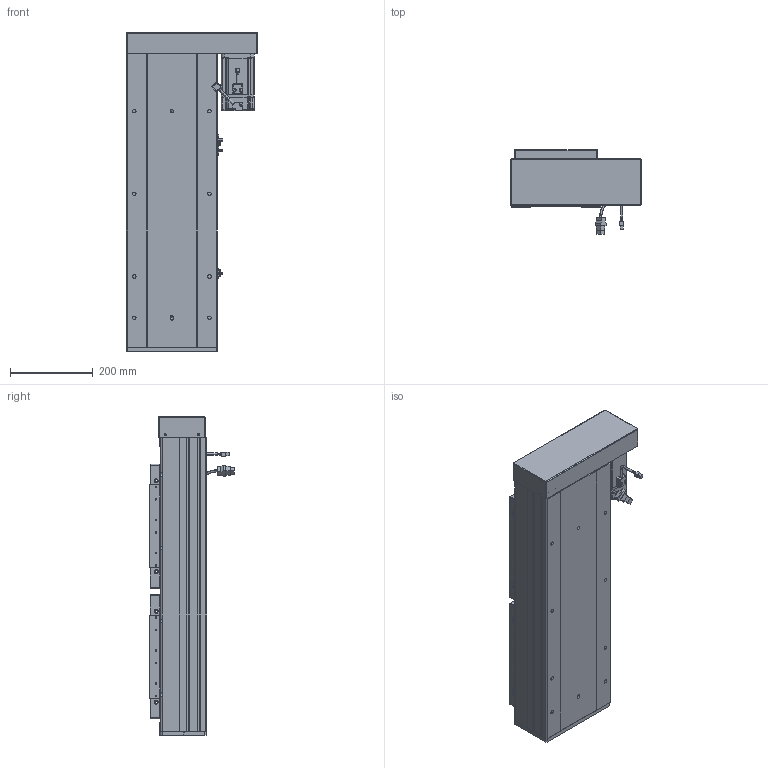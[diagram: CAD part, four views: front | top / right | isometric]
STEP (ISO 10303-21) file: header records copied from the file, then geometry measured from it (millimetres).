
FILE_DESCRIPTION (( 'STEP AP203' ), '1' );
FILE_NAME ('RY220F-L2525-300-RK.SLDASM_默认.step', '2022-07-04T01:34:33', ( '' ), ( '' ), 'SwSTEP 2.0', 'SolidWorks 2016', '' );
FILE_SCHEMA (( 'CONFIG_CONTROL_DESIGN' ));
Length unit declared in the file: millimetre
Products named in the file (15): RY220F-詩湍揤踡輸; RY220F蛌殏菁釱-300; 滅袉蝶18-24; RY220左右折电机安装板; 覜茼ん672; RY220F-祥凄詩湍-蛌殏-300; 侐源滅袉蝶; RY220F-672覜茼んえ; RY220F-滅鳥奻裔; 怢湛750W_ECMA-CX0807ES; RY220酘衵殏萇儂欶; RY220F-蛌殏奻裔啣-300; RY220F-L2525-300-RK.SLDASM_默认; RY220F臏賑釱25-32佪裝; RY220F綴裔啣
Assembly tree (24 placements, depth 2):
  RY220F-L2525-300-RK.SLDASM_默认
    RY220F蛌殏菁釱-300
    RY220F-蛌殏奻裔啣-300  x2
    怢湛750W_ECMA-CX0807ES
    RY220F臏賑釱25-32佪裝  x2
    RY220F-滅鳥奻裔  x2
    滅袉蝶18-24  x3
    RY220F綴裔啣
    RY220F-祥凄詩湍-蛌殏-300
    RY220F-詩湍揤踡輸  x2
    覜茼ん672  x3
    RY220F-672覜茼んえ  x2
    RY220左右折电机安装板
    RY220酘衵殏萇儂欶
    侐源滅袉蝶  x2
Bounding box: 317.5 x 205.27 x 771 mm (x, y, z)
Volume: 9828409.6 mm3; surface area: 2483531.8 mm2
Topology: 25 solids, 25 shells, 2644 faces, 7212 edges, 4494 vertices
Faces by surface type: cylinder 1178, plane 1044, cone 351, bspline 45, sphere 16, torus 10
Entity records: 65288 total; most frequent: CARTESIAN_POINT 18091, ORIENTED_EDGE 9582, DIRECTION 9180, EDGE_CURVE 4791, AXIS2_PLACEMENT_3D 3234, VERTEX_POINT 3110, LINE 2712, VECTOR 2712
